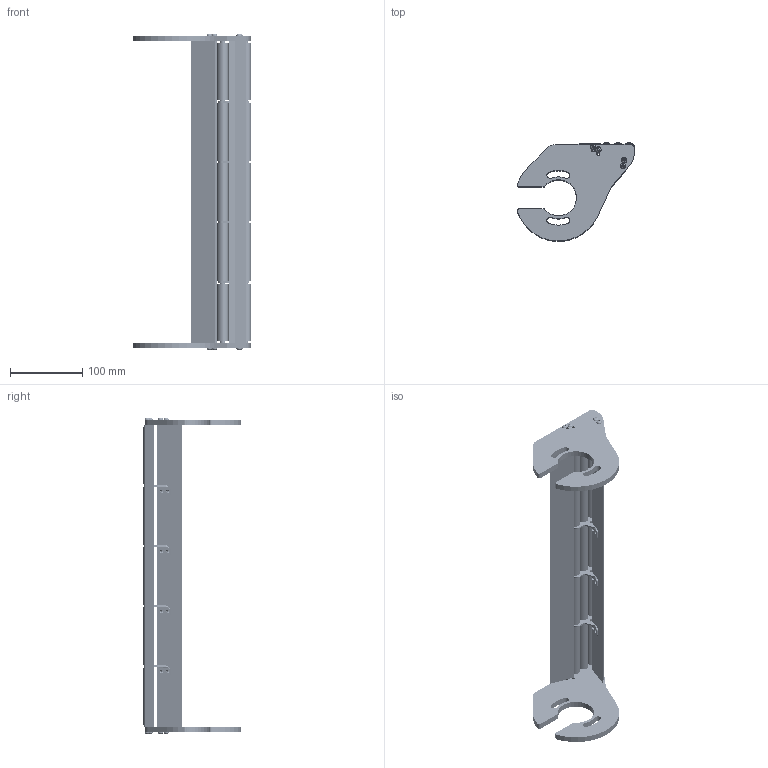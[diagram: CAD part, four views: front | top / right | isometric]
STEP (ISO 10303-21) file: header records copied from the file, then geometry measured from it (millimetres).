
FILE_DESCRIPTION (( 'STEP AP214' ), '1' );
FILE_NAME ('F2 1500 TGRI 1R.STEP', '2024-02-26T14:52:59', ( '' ), ( '' ), 'SwSTEP 2.0', 'SolidWorks 2022', '' );
FILE_SCHEMA (( 'AUTOMOTIVE_DESIGN' ));
Length unit declared in the file: millimetre
Products named in the file (15): ROULEMENT TGRI CAB-F2-R-HEF; PSTI F2 1R Symétrie; GR F2 1500; ENTRETOISE SA TGRI; PSTI F2 1R; SA TGRI; Insert M4 TB; F2 1500 TGRI 1R; AXE TGRI F2 1500; Galet + roulement F2 1500; TBHC 4X16; SA TGRI + ENTRETOISE; PT-F2 - F2-1500; PT-F2 - F2-1500 percé; ENTRETOISE TGRI CAB-F2-R-HEF
Assembly tree (55 placements, depth 3):
  F2 1500 TGRI 1R
    PSTI F2 1R Symétrie
    PSTI F2 1R
    PT-F2 - F2-1500 percé
    PT-F2 - F2-1500
    AXE TGRI F2 1500  x3
    ENTRETOISE TGRI CAB-F2-R-HEF  x6
    Galet + roulement F2 1500  x15
      GR F2 1500
      ROULEMENT TGRI CAB-F2-R-HEF
    SA TGRI + ENTRETOISE  x4
      SA TGRI
      ENTRETOISE SA TGRI
    TBHC 4X16  x8
    Insert M4 TB  x8
Bounding box: 162.87 x 136.6 x 438.78 mm (x, y, z)
Volume: 595943.8 mm3; surface area: 277975.1 mm2
Topology: 90 solids, 90 shells, 3058 faces, 6776 edges, 4012 vertices
Faces by surface type: cone 1056, cylinder 990, plane 512, torus 428, sphere 52, bspline 20
Entity records: 18006 total; most frequent: CARTESIAN_POINT 3315, DIRECTION 3175, ORIENTED_EDGE 2612, EDGE_CURVE 1306, AXIS2_PLACEMENT_3D 1290, VERTEX_POINT 791, CIRCLE 673, EDGE_LOOP 619
